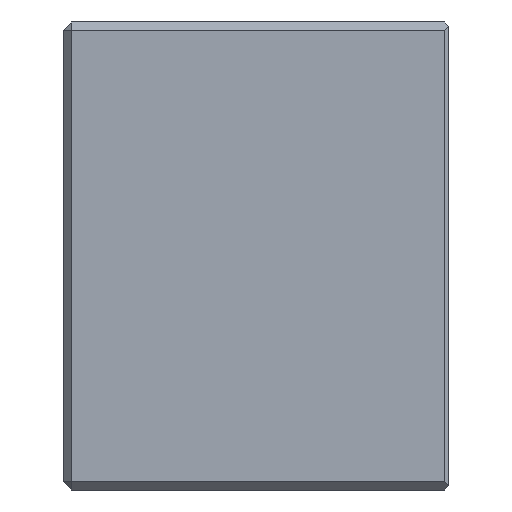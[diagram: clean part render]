
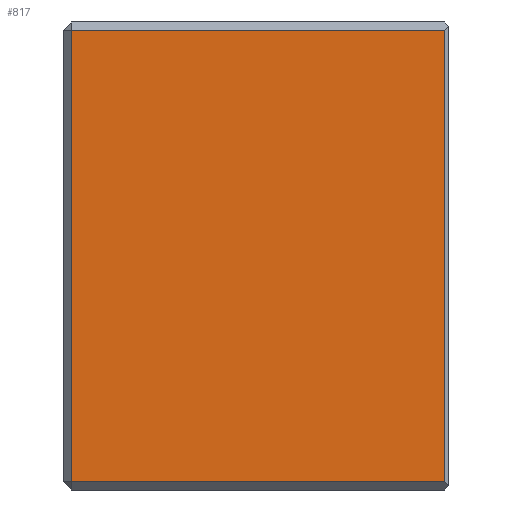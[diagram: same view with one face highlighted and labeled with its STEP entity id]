
A CAD part, left-side view. The second image highlights one B-rep face of the part: STEP entity #817.
In plain terms, the highlighted planar face has unit normal (-1, 0, 0).
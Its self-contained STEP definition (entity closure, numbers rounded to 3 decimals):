
#52 = DIRECTION ( 'NONE',  ( 0., 1., 0. ) ) ;
#122 = FACE_OUTER_BOUND ( 'NONE', #1010, .T. ) ;
#223 = DIRECTION ( 'NONE',  ( 1., 0., 0. ) ) ;
#225 = CARTESIAN_POINT ( 'NONE',  ( -80., 46., -27.5 ) ) ;
#246 = EDGE_CURVE ( 'NONE', #354, #1480, #1424, .T. ) ;
#354 = VERTEX_POINT ( 'NONE', #635 ) ;
#363 = EDGE_CURVE ( 'NONE', #965, #563, #1007, .T. ) ;
#371 = VECTOR ( 'NONE', #751, 1000. ) ;
#414 = LINE ( 'NONE', #999, #927 ) ;
#434 = CARTESIAN_POINT ( 'NONE',  ( -80., 0.5, 27.5 ) ) ;
#442 = DIRECTION ( 'NONE',  ( 0., 0., -1. ) ) ;
#455 = PLANE ( 'NONE',  #678 ) ;
#563 = VERTEX_POINT ( 'NONE', #225 ) ;
#635 = CARTESIAN_POINT ( 'NONE',  ( -80., 0.5, -27.5 ) ) ;
#642 = DIRECTION ( 'NONE',  ( 0., 0., -1. ) ) ;
#678 = AXIS2_PLACEMENT_3D ( 'NONE', #1286, #223, #442 ) ;
#751 = DIRECTION ( 'NONE',  ( 0., 0., 1. ) ) ;
#754 = ORIENTED_EDGE ( 'NONE', *, *, #1061, .T. ) ;
#771 = CARTESIAN_POINT ( 'NONE',  ( -80., 47., 27.5 ) ) ;
#780 = LINE ( 'NONE', #771, #914 ) ;
#817 = ADVANCED_FACE ( 'NONE', ( #122 ), #455, .F. ) ;
#914 = VECTOR ( 'NONE', #52, 1000. ) ;
#927 = VECTOR ( 'NONE', #1008, 1000. ) ;
#964 = CARTESIAN_POINT ( 'NONE',  ( -80., 0.5, 27.5 ) ) ;
#965 = VERTEX_POINT ( 'NONE', #1457 ) ;
#986 = ORIENTED_EDGE ( 'NONE', *, *, #1282, .T. ) ;
#999 = CARTESIAN_POINT ( 'NONE',  ( -80., 47., -27.5 ) ) ;
#1007 = LINE ( 'NONE', #1127, #1121 ) ;
#1008 = DIRECTION ( 'NONE',  ( 0., -1., 0. ) ) ;
#1010 = EDGE_LOOP ( 'NONE', ( #754, #1270, #986, #1238 ) ) ;
#1061 = EDGE_CURVE ( 'NONE', #563, #354, #414, .T. ) ;
#1121 = VECTOR ( 'NONE', #642, 1000. ) ;
#1127 = CARTESIAN_POINT ( 'NONE',  ( -80., 46., 28.5 ) ) ;
#1238 = ORIENTED_EDGE ( 'NONE', *, *, #363, .T. ) ;
#1270 = ORIENTED_EDGE ( 'NONE', *, *, #246, .T. ) ;
#1282 = EDGE_CURVE ( 'NONE', #1480, #965, #780, .T. ) ;
#1286 = CARTESIAN_POINT ( 'NONE',  ( -80., 47., 28.5 ) ) ;
#1424 = LINE ( 'NONE', #964, #371 ) ;
#1457 = CARTESIAN_POINT ( 'NONE',  ( -80., 46., 27.5 ) ) ;
#1480 = VERTEX_POINT ( 'NONE', #434 ) ;
